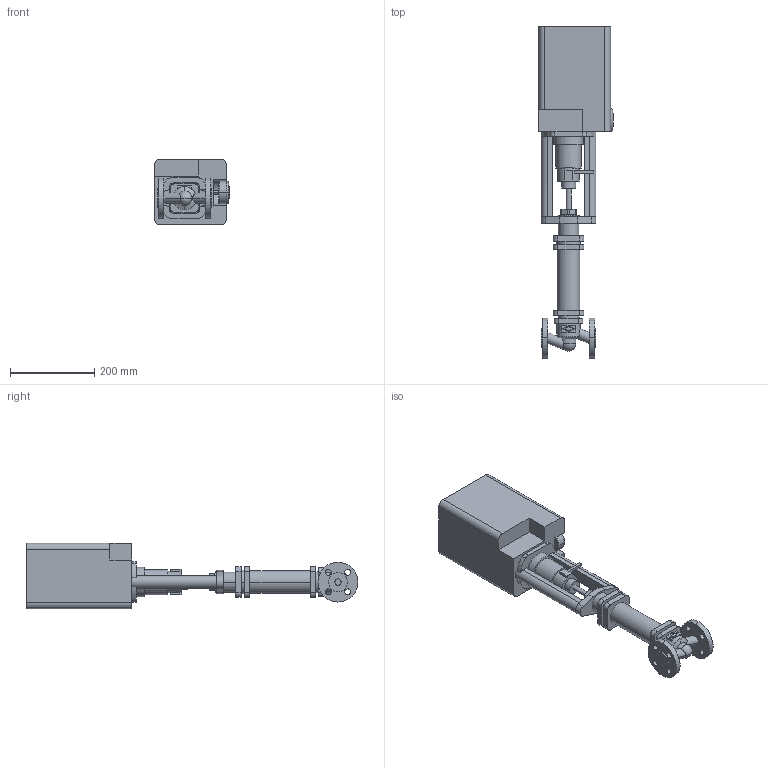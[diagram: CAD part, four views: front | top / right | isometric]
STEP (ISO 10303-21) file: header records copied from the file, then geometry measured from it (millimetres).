
FILE_DESCRIPTION(('CoCreate Modeling STEP Export'),'2;1');
FILE_NAME('c000004799.stp','2011-10-11T11:21:13',(''),(''),'CoCreate Modeling STEP processor for AP214 (Solid Model)','CoCreate Modeling 17.0 01-Apr-2010 (C) Parametric Technology GmbH','');
FILE_SCHEMA(('AUTOMOTIVE_DESIGN { 1 0 10303 214 1 1 1 1 }'));
Length unit declared in the file: millimetre
Products named in the file (2): 1; 2
Bounding box: 177.7 x 788.5 x 156 mm (x, y, z)
Volume: 8184689.3 mm3; surface area: 428063 mm2
Topology: 2 solids, 2 shells, 224 faces, 570 edges, 377 vertices
Faces by surface type: plane 108, cylinder 103, sphere 6, torus 4, cone 3
Entity records: 8259 total; most frequent: CARTESIAN_POINT 1219, ORIENTED_EDGE 1136, DIRECTION 1016, EDGE_CURVE 568, VERTEX_POINT 377, AXIS2_PLACEMENT_3D 351, VECTOR 314, LINE 314
